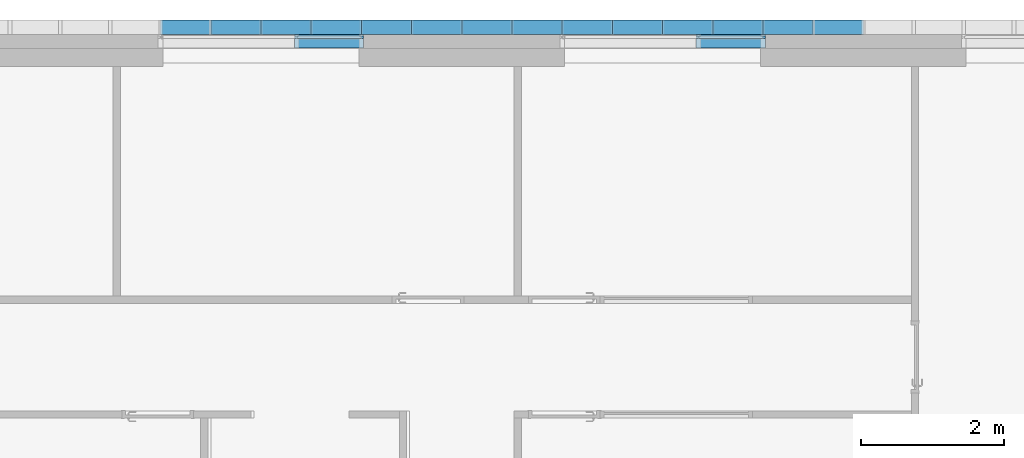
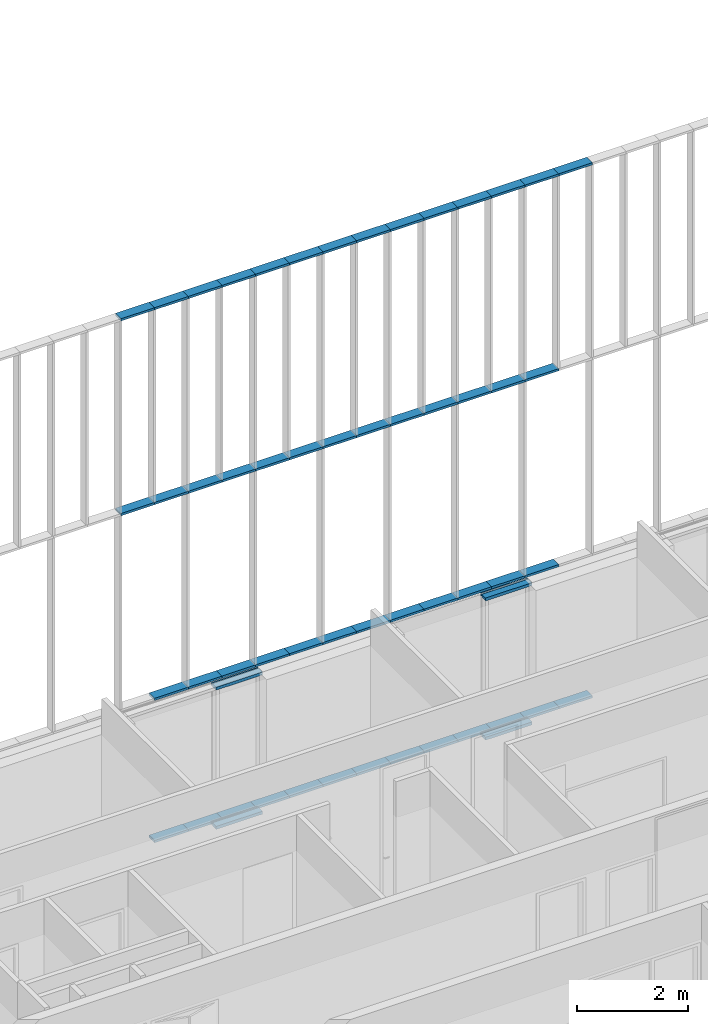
# One storey, part 43 of 240: 56 members, 3 elements without a shape of their own.
"""IFC2X3 building model written with IfcOpenShell, lengths in centimetres."""

from ifc_helpers import new_model, entity, si_unit, converted_unit, derived_unit, direction, frame, origin, origin_2d_with_axis, place, context, subcontext, project, spatial, polyline, rectangle, outline, extrude, source, transform, mapped, material, type_object, type_shapes, element, aggregate, save


model = new_model("IFC2X3")

# Units and contexts
model_context = context("Model", 3, precision=0.001, world=origin(), true_north=direction((6.12303176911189e-17, 1.0)))
body_context = subcontext(model_context, "Body", "Model", "MODEL_VIEW")
ifc_project = project(units=[si_unit("LENGTHUNIT", "METRE", prefix="CENTI"), si_unit("AREAUNIT", "SQUARE_METRE"), si_unit("VOLUMEUNIT", "CUBIC_METRE"), converted_unit("PLANEANGLEUNIT", "DEGREE", entity("IfcRatioMeasure", 0.0174532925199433), si_unit("PLANEANGLEUNIT", "RADIAN"), dimensions=[0, 0, 0, 0, 0, 0, 0]), si_unit("MASSUNIT", "GRAM", prefix="KILO"), derived_unit("MASSDENSITYUNIT", [(si_unit("MASSUNIT", "GRAM", prefix="KILO"), 1), (si_unit("LENGTHUNIT", "METRE"), -3)]), si_unit("TIMEUNIT", "SECOND"), si_unit("FREQUENCYUNIT", "HERTZ"), si_unit("THERMODYNAMICTEMPERATUREUNIT", "DEGREE_CELSIUS"), derived_unit("THERMALTRANSMITTANCEUNIT", [(si_unit("MASSUNIT", "GRAM", prefix="KILO"), 1), (si_unit("THERMODYNAMICTEMPERATUREUNIT", "KELVIN"), -1), (si_unit("TIMEUNIT", "SECOND"), -3)]), derived_unit("VOLUMETRICFLOWRATEUNIT", [(si_unit("LENGTHUNIT", "METRE"), 3), (si_unit("TIMEUNIT", "SECOND"), -1)]), si_unit("ELECTRICCURRENTUNIT", "AMPERE"), si_unit("ELECTRICVOLTAGEUNIT", "VOLT"), si_unit("POWERUNIT", "WATT"), si_unit("FORCEUNIT", "NEWTON", prefix="KILO"), si_unit("ILLUMINANCEUNIT", "LUX"), si_unit("LUMINOUSFLUXUNIT", "LUMEN"), si_unit("LUMINOUSINTENSITYUNIT", "CANDELA"), derived_unit("USERDEFINED", [(si_unit("MASSUNIT", "GRAM", prefix="KILO"), -1), (si_unit("LENGTHUNIT", "METRE"), -2), (si_unit("TIMEUNIT", "SECOND"), 3), (si_unit("LUMINOUSFLUXUNIT", "LUMEN"), 1)]), derived_unit("LINEARVELOCITYUNIT", [(si_unit("LENGTHUNIT", "METRE"), 1), (si_unit("TIMEUNIT", "SECOND"), -1)]), si_unit("PRESSUREUNIT", "PASCAL"), derived_unit("USERDEFINED", [(si_unit("LENGTHUNIT", "METRE"), -2), (si_unit("MASSUNIT", "GRAM", prefix="KILO"), 1), (si_unit("TIMEUNIT", "SECOND"), -2)])], contexts=[model_context])

# Site, building, storey
site_placement = place(None, frame((-2781.94577612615, 7442.24238424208, 0.0)))
site = spatial("IfcSite", under=ifc_project, at=site_placement, Name="Default", CompositionType="ELEMENT")
building_placement = place(site_placement, origin())
building = spatial("IfcBuilding", under=site, at=building_placement, CompositionType="ELEMENT")
storey_placement = place(building_placement, origin())
storey = spatial("IfcBuildingStorey", under=building, at=storey_placement, Name="N00 - COO", CompositionType="ELEMENT", Elevation=0.0)

# Curtain wall, member
curtain_wall_type_1 = type_object("IfcCurtainWallType", Name="Mur-rideau:07 - mur rideau trame 280 cm", PredefinedType="NOTDEFINED")
curtain_wall_1_placement = place(building_placement, origin())
curtain_wall_1 = element("IfcCurtainWall", 1, at=curtain_wall_1_placement, inside=storey, type_object=curtain_wall_type_1, Name="Mur-rideau:07 - mur rideau trame 280 cm", ObjectType="Mur-rideau:07 - mur rideau trame 280 cm")
ifc_material = material(Name="Aluminium")
member_type_1 = type_object("IfcMemberType", Name="150 x 25mm Détails", PredefinedType="MEMBER")
shared_shape_1 = source(origin(), body_context, "Body", "SweptSolid", [
    extrude(outline(polyline([(-5.6666666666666, -3.24999999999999), (-3.66666666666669, -3.24999999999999), (-3.66666666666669, -0.868749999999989), (-0.166666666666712, -0.868749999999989), (-0.166666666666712, -3.25000000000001), (13.3333333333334, -3.25000000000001), (13.3333333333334, 3.24999999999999), (-0.16666666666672, 3.24999999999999), (-0.16666666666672, 0.868749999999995), (-3.66666666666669, 0.868749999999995), (-3.66666666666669, 3.25), (-5.6666666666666, 3.25), (-5.6666666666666, -3.24999999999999)])), frame((-3.24999999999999, -1.96666666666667, -96.5000000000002), z_axis=(0.0, 0.0, 1.0), x_axis=(0.0, -1.0, 0.0)), (0.0, 0.0, 1.0), 96.5),
])
type_shapes(member_type_1, [shared_shape_1])
member_1_placement = place(building_placement, frame((-5422.74987760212, 26.2000000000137, 6.5), z_axis=(-1.0, 0.0, 0.0), x_axis=(0.0, 0.0, 1.0)))
member_1 = element("IfcMember", 2, at=member_1_placement, type_object=member_type_1, material=ifc_material, Name="Meneau rectangulaire:150 x 25mm Détails", ObjectType="Meneau rectangulaire:150 x 25mm Détails", context=body_context, shape_type="MappedRepresentation", body=[
    mapped(shared_shape_1, transform((0.0, 0.0, 0.0), scale=1.0)),
])

curtain_wall_2_placement = place(building_placement, origin())
curtain_wall_2 = element("IfcCurtainWall", 3, at=curtain_wall_2_placement, inside=storey, type_object=curtain_wall_type_1, Name="Mur-rideau:07 - mur rideau trame 280 cm", ObjectType="Mur-rideau:07 - mur rideau trame 280 cm")
member_2_placement = place(building_placement, frame((-5982.74987760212, 26.2000000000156, 6.5), z_axis=(-1.0, 0.0, 0.0), x_axis=(0.0, 0.0, 1.0)))
member_2 = element("IfcMember", 4, at=member_2_placement, type_object=member_type_1, material=ifc_material, Name="Meneau rectangulaire:150 x 25mm Détails", ObjectType="Meneau rectangulaire:150 x 25mm Détails", context=body_context, shape_type="MappedRepresentation", body=[
    mapped(shared_shape_1, transform((0.0, 0.0, 0.0), scale=1.0)),
])

# Member
member_type_2 = type_object("IfcMemberType", Name="150 x 25mm Détails", PredefinedType="MEMBER")
shared_shape_2 = source(origin(), body_context, "Body", "SweptSolid", [
    extrude(outline(polyline([(-5.66666666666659, -3.25), (-3.66666666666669, -3.25), (-3.66666666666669, -0.868749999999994), (-0.166666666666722, -0.868749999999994), (-0.166666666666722, -3.25000000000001), (13.3333333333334, -3.24999999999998), (13.3333333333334, 3.25000000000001), (-0.166666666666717, 3.25000000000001), (-0.166666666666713, 0.868749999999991), (-3.66666666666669, 0.868749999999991), (-3.66666666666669, 3.24999999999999), (-5.66666666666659, 3.24999999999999), (-5.66666666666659, -3.25)])), frame((-3.24999999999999, -1.96666666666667, -96.5000000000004), z_axis=(0.0, 0.0, 1.0), x_axis=(0.0, -1.0, 0.0)), (0.0, 0.0, 1.0), 96.5),
])
type_shapes(member_type_2, [shared_shape_2])
member_3_placement = place(building_placement, frame((-5326.24987760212, 26.2000000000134, 306.0), z_axis=(1.0, 0.0, 0.0), x_axis=(0.0, 0.0, -1.0)))
member_3 = element("IfcMember", 5, at=member_3_placement, type_object=member_type_2, material=ifc_material, Name="Meneau rectangulaire:150 x 25mm Détails", ObjectType="Meneau rectangulaire:150 x 25mm Détails", context=body_context, shape_type="MappedRepresentation", body=[
    mapped(shared_shape_2, transform((0.0, 0.0, 0.0), scale=1.0)),
])

aggregate(curtain_wall_1, [member_3, member_1])

member_4_placement = place(building_placement, frame((-5886.24987760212, 26.2000000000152, 306.0), z_axis=(1.0, 0.0, 0.0), x_axis=(0.0, 0.0, -1.0)))
member_4 = element("IfcMember", 6, at=member_4_placement, type_object=member_type_2, material=ifc_material, Name="Meneau rectangulaire:150 x 25mm Détails", ObjectType="Meneau rectangulaire:150 x 25mm Détails", context=body_context, shape_type="MappedRepresentation", body=[
    mapped(shared_shape_2, transform((0.0, 0.0, 0.0), scale=1.0)),
])

aggregate(curtain_wall_2, [member_2, member_4])

# Curtain wall, members
curtain_wall_type_2 = type_object("IfcCurtainWallType", Name="Mur-rideau:Epines - 200x50mm", PredefinedType="NOTDEFINED")
curtain_wall_3_placement = place(building_placement, origin())
curtain_wall_3 = element("IfcCurtainWall", 7, at=curtain_wall_3_placement, inside=storey, type_object=curtain_wall_type_2, Name="Mur-rideau:Epines - 200x50mm", ObjectType="Mur-rideau:Epines - 200x50mm")
member_type_3 = type_object("IfcMemberType", Name="200x50 mm", PredefinedType="MEMBER")
shared_shape_3 = source(origin(), body_context, "Body", "SweptSolid", [
    extrude(rectangle(XDim=20.0, YDim=5.0, at=origin_2d_with_axis()), frame((-2.5, 0.0, -70.0), z_axis=(0.0, 0.0, 1.0), x_axis=(0.0, -1.0, 0.0)), (0.0, 0.0, 1.0), 70.0000000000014),
])
type_shapes(member_type_3, [shared_shape_3])
member_5_placement = place(building_placement, frame((-5329.49987760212, 40.0, 1176.0), z_axis=(1.0, 0.0, 0.0), x_axis=(0.0, 0.0, 1.0)))
member_5 = element("IfcMember", 8, at=member_5_placement, type_object=member_type_3, material=ifc_material, Name="Meneau rectangulaire:200x50 mm", ObjectType="Meneau rectangulaire:200x50 mm", context=body_context, shape_type="MappedRepresentation", body=[
    mapped(shared_shape_3, transform((0.0, 0.0, 0.0), scale=1.0)),
])
member_6_placement = place(building_placement, frame((-5609.49987760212, 40.0, 1176.0), z_axis=(1.0, 0.0, 0.0), x_axis=(0.0, 0.0, 1.0)))
member_6 = element("IfcMember", 9, at=member_6_placement, type_object=member_type_3, material=ifc_material, Name="Meneau rectangulaire:200x50 mm", ObjectType="Meneau rectangulaire:200x50 mm", context=body_context, shape_type="MappedRepresentation", body=[
    mapped(shared_shape_3, transform((0.0, 0.0, 0.0), scale=1.0)),
])
member_7_placement = place(building_placement, frame((-5889.49987760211, 40.0, 1176.0), z_axis=(1.0, 0.0, 0.0), x_axis=(0.0, 0.0, 1.0)))
member_7 = element("IfcMember", 10, at=member_7_placement, type_object=member_type_3, material=ifc_material, Name="Meneau rectangulaire:200x50 mm", ObjectType="Meneau rectangulaire:200x50 mm", context=body_context, shape_type="MappedRepresentation", body=[
    mapped(shared_shape_3, transform((0.0, 0.0, 0.0), scale=1.0)),
])
member_8_placement = place(building_placement, frame((-6029.49987760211, 40.0, 1176.0), z_axis=(1.0, 0.0, 0.0), x_axis=(0.0, 0.0, 1.0)))
member_8 = element("IfcMember", 11, at=member_8_placement, type_object=member_type_3, material=ifc_material, Name="Meneau rectangulaire:200x50 mm", ObjectType="Meneau rectangulaire:200x50 mm", context=body_context, shape_type="MappedRepresentation", body=[
    mapped(shared_shape_3, transform((0.0, 0.0, 0.0), scale=1.0)),
])
member_9_placement = place(building_placement, frame((-5189.49987760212, 40.0, 1176.0), z_axis=(1.0, 0.0, 0.0), x_axis=(0.0, 0.0, 1.0)))
member_9 = element("IfcMember", 12, at=member_9_placement, type_object=member_type_3, material=ifc_material, Name="Meneau rectangulaire:200x50 mm", ObjectType="Meneau rectangulaire:200x50 mm", context=body_context, shape_type="MappedRepresentation", body=[
    mapped(shared_shape_3, transform((0.0, 0.0, 0.0), scale=1.0)),
])
member_10_placement = place(building_placement, frame((-5469.49987760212, 40.0, 1176.0), z_axis=(1.0, 0.0, 0.0), x_axis=(0.0, 0.0, 1.0)))
member_10 = element("IfcMember", 13, at=member_10_placement, type_object=member_type_3, material=ifc_material, Name="Meneau rectangulaire:200x50 mm", ObjectType="Meneau rectangulaire:200x50 mm", context=body_context, shape_type="MappedRepresentation", body=[
    mapped(shared_shape_3, transform((0.0, 0.0, 0.0), scale=1.0)),
])
member_11_placement = place(building_placement, frame((-5749.49987760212, 40.0, 1176.0), z_axis=(1.0, 0.0, 0.0), x_axis=(0.0, 0.0, 1.0)))
member_11 = element("IfcMember", 14, at=member_11_placement, type_object=member_type_3, material=ifc_material, Name="Meneau rectangulaire:200x50 mm", ObjectType="Meneau rectangulaire:200x50 mm", context=body_context, shape_type="MappedRepresentation", body=[
    mapped(shared_shape_3, transform((0.0, 0.0, 0.0), scale=1.0)),
])
member_12_placement = place(building_placement, frame((-5259.49987760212, 40.0, 1176.0), z_axis=(1.0, 0.0, 0.0), x_axis=(0.0, 0.0, 1.0)))
member_12 = element("IfcMember", 15, at=member_12_placement, type_object=member_type_3, material=ifc_material, Name="Meneau rectangulaire:200x50 mm", ObjectType="Meneau rectangulaire:200x50 mm", context=body_context, shape_type="MappedRepresentation", body=[
    mapped(shared_shape_3, transform((0.0, 0.0, 0.0), scale=1.0)),
])
member_13_placement = place(building_placement, frame((-5399.49987760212, 40.0, 1176.0), z_axis=(1.0, 0.0, 0.0), x_axis=(0.0, 0.0, 1.0)))
member_13 = element("IfcMember", 16, at=member_13_placement, type_object=member_type_3, material=ifc_material, Name="Meneau rectangulaire:200x50 mm", ObjectType="Meneau rectangulaire:200x50 mm", context=body_context, shape_type="MappedRepresentation", body=[
    mapped(shared_shape_3, transform((0.0, 0.0, 0.0), scale=1.0)),
])
member_14_placement = place(building_placement, frame((-5539.49987760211, 40.0, 1176.0), z_axis=(1.0, 0.0, 0.0), x_axis=(0.0, 0.0, 1.0)))
member_14 = element("IfcMember", 17, at=member_14_placement, type_object=member_type_3, material=ifc_material, Name="Meneau rectangulaire:200x50 mm", ObjectType="Meneau rectangulaire:200x50 mm", context=body_context, shape_type="MappedRepresentation", body=[
    mapped(shared_shape_3, transform((0.0, 0.0, 0.0), scale=1.0)),
])
member_15_placement = place(building_placement, frame((-5679.49987760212, 40.0, 1176.0), z_axis=(1.0, 0.0, 0.0), x_axis=(0.0, 0.0, 1.0)))
member_15 = element("IfcMember", 18, at=member_15_placement, type_object=member_type_3, material=ifc_material, Name="Meneau rectangulaire:200x50 mm", ObjectType="Meneau rectangulaire:200x50 mm", context=body_context, shape_type="MappedRepresentation", body=[
    mapped(shared_shape_3, transform((0.0, 0.0, 0.0), scale=1.0)),
])
member_16_placement = place(building_placement, frame((-5819.49987760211, 40.0, 1176.0), z_axis=(1.0, 0.0, 0.0), x_axis=(0.0, 0.0, 1.0)))
member_16 = element("IfcMember", 19, at=member_16_placement, type_object=member_type_3, material=ifc_material, Name="Meneau rectangulaire:200x50 mm", ObjectType="Meneau rectangulaire:200x50 mm", context=body_context, shape_type="MappedRepresentation", body=[
    mapped(shared_shape_3, transform((0.0, 0.0, 0.0), scale=1.0)),
])
member_17_placement = place(building_placement, frame((-5959.49987760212, 40.0, 1176.0), z_axis=(1.0, 0.0, 0.0), x_axis=(0.0, 0.0, 1.0)))
member_17 = element("IfcMember", 20, at=member_17_placement, type_object=member_type_3, material=ifc_material, Name="Meneau rectangulaire:200x50 mm", ObjectType="Meneau rectangulaire:200x50 mm", context=body_context, shape_type="MappedRepresentation", body=[
    mapped(shared_shape_3, transform((0.0, 0.0, 0.0), scale=1.0)),
])
member_18_placement = place(building_placement, frame((-6099.49987760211, 40.0, 1176.0), z_axis=(1.0, 0.0, 0.0), x_axis=(0.0, 0.0, 1.0)))
member_18 = element("IfcMember", 21, at=member_18_placement, type_object=member_type_3, material=ifc_material, Name="Meneau rectangulaire:200x50 mm", ObjectType="Meneau rectangulaire:200x50 mm", context=body_context, shape_type="MappedRepresentation", body=[
    mapped(shared_shape_3, transform((0.0, 0.0, 0.0), scale=1.0)),
])
member_type_4 = type_object("IfcMemberType", Name="200x50 mm", PredefinedType="MEMBER")
shared_shape_4 = source(origin(), body_context, "Body", "SweptSolid", [
    extrude(rectangle(XDim=20.0, YDim=5.0, at=origin_2d_with_axis()), frame((-2.5, 0.0, -70.0), z_axis=(0.0, 0.0, 1.0), x_axis=(0.0, -1.0, 0.0)), (0.0, 0.0, 1.0), 70.0000000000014),
])
type_shapes(member_type_4, [shared_shape_4])
member_19_placement = place(building_placement, frame((-5329.49987760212, 40.0, 0.0), z_axis=(-1.0, 0.0, 0.0), x_axis=(0.0, 0.0, -1.0)))
member_19 = element("IfcMember", 22, at=member_19_placement, type_object=member_type_4, material=ifc_material, Name="Meneau rectangulaire:200x50 mm", ObjectType="Meneau rectangulaire:200x50 mm", context=body_context, shape_type="MappedRepresentation", body=[
    mapped(shared_shape_4, transform((0.0, 0.0, 0.0), scale=1.0)),
])
member_20_placement = place(building_placement, frame((-5609.49987760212, 40.0, 0.0), z_axis=(-1.0, 0.0, 0.0), x_axis=(0.0, 0.0, -1.0)))
member_20 = element("IfcMember", 23, at=member_20_placement, type_object=member_type_4, material=ifc_material, Name="Meneau rectangulaire:200x50 mm", ObjectType="Meneau rectangulaire:200x50 mm", context=body_context, shape_type="MappedRepresentation", body=[
    mapped(shared_shape_4, transform((0.0, 0.0, 0.0), scale=1.0)),
])
member_21_placement = place(building_placement, frame((-5889.49987760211, 40.0, 0.0), z_axis=(-1.0, 0.0, 0.0), x_axis=(0.0, 0.0, -1.0)))
member_21 = element("IfcMember", 24, at=member_21_placement, type_object=member_type_4, material=ifc_material, Name="Meneau rectangulaire:200x50 mm", ObjectType="Meneau rectangulaire:200x50 mm", context=body_context, shape_type="MappedRepresentation", body=[
    mapped(shared_shape_4, transform((0.0, 0.0, 0.0), scale=1.0)),
])
member_type_5 = type_object("IfcMemberType", Name="200x50 mm", PredefinedType="MEMBER")
shared_shape_5 = source(origin(), body_context, "Body", "SweptSolid", [
    extrude(rectangle(XDim=20.0, YDim=5.0, at=origin_2d_with_axis()), frame((0.0, 0.0, -70.0), z_axis=(0.0, 0.0, 1.0), x_axis=(0.0, -1.0, 0.0)), (0.0, 0.0, 1.0), 70.0000000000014),
])
type_shapes(member_type_5, [shared_shape_5])
member_22_placement = place(building_placement, frame((-5259.49987760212, 40.0, 315.0), z_axis=(1.0, 0.0, 0.0), x_axis=(0.0, 0.0, 1.0)))
member_22 = element("IfcMember", 25, at=member_22_placement, type_object=member_type_5, material=ifc_material, Name="Meneau rectangulaire:200x50 mm", ObjectType="Meneau rectangulaire:200x50 mm", context=body_context, shape_type="MappedRepresentation", body=[
    mapped(shared_shape_5, transform((0.0, 0.0, 0.0), scale=1.0)),
])
member_23_placement = place(building_placement, frame((-5539.49987760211, 40.0, 315.0), z_axis=(1.0, 0.0, 0.0), x_axis=(0.0, 0.0, 1.0)))
member_23 = element("IfcMember", 26, at=member_23_placement, type_object=member_type_5, material=ifc_material, Name="Meneau rectangulaire:200x50 mm", ObjectType="Meneau rectangulaire:200x50 mm", context=body_context, shape_type="MappedRepresentation", body=[
    mapped(shared_shape_5, transform((0.0, 0.0, 0.0), scale=1.0)),
])
member_24_placement = place(building_placement, frame((-5819.49987760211, 40.0, 315.0), z_axis=(1.0, 0.0, 0.0), x_axis=(0.0, 0.0, 1.0)))
member_24 = element("IfcMember", 27, at=member_24_placement, type_object=member_type_5, material=ifc_material, Name="Meneau rectangulaire:200x50 mm", ObjectType="Meneau rectangulaire:200x50 mm", context=body_context, shape_type="MappedRepresentation", body=[
    mapped(shared_shape_5, transform((0.0, 0.0, 0.0), scale=1.0)),
])
member_25_placement = place(building_placement, frame((-5959.49987760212, 40.0, 315.0), z_axis=(1.0, 0.0, 0.0), x_axis=(0.0, 0.0, 1.0)))
member_25 = element("IfcMember", 28, at=member_25_placement, type_object=member_type_5, material=ifc_material, Name="Meneau rectangulaire:200x50 mm", ObjectType="Meneau rectangulaire:200x50 mm", context=body_context, shape_type="MappedRepresentation", body=[
    mapped(shared_shape_5, transform((0.0, 0.0, 0.0), scale=1.0)),
])
member_26_placement = place(building_placement, frame((-5399.49987760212, 40.0, 315.0), z_axis=(1.0, 0.0, 0.0), x_axis=(0.0, 0.0, 1.0)))
member_26 = element("IfcMember", 29, at=member_26_placement, type_object=member_type_5, material=ifc_material, Name="Meneau rectangulaire:200x50 mm", ObjectType="Meneau rectangulaire:200x50 mm", context=body_context, shape_type="MappedRepresentation", body=[
    mapped(shared_shape_5, transform((0.0, 0.0, 0.0), scale=1.0)),
])
member_27_placement = place(building_placement, frame((-5679.49987760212, 40.0, 315.0), z_axis=(1.0, 0.0, 0.0), x_axis=(0.0, 0.0, 1.0)))
member_27 = element("IfcMember", 30, at=member_27_placement, type_object=member_type_5, material=ifc_material, Name="Meneau rectangulaire:200x50 mm", ObjectType="Meneau rectangulaire:200x50 mm", context=body_context, shape_type="MappedRepresentation", body=[
    mapped(shared_shape_5, transform((0.0, 0.0, 0.0), scale=1.0)),
])
member_type_6 = type_object("IfcMemberType", Name="200x50 mm", PredefinedType="MEMBER")
shared_shape_6 = source(origin(), body_context, "Body", "SweptSolid", [
    extrude(rectangle(XDim=20.0, YDim=5.0, at=origin_2d_with_axis()), frame((0.0, 0.0, -70.0), z_axis=(0.0, 0.0, 1.0), x_axis=(0.0, -1.0, 0.0)), (0.0, 0.0, 1.0), 70.0000000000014),
])
type_shapes(member_type_6, [shared_shape_6])
member_28_placement = place(building_placement, frame((-5259.49987760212, 40.0, 745.5), z_axis=(1.0, 0.0, 0.0), x_axis=(0.0, 0.0, 1.0)))
member_28 = element("IfcMember", 31, at=member_28_placement, type_object=member_type_6, material=ifc_material, Name="Meneau rectangulaire:200x50 mm", ObjectType="Meneau rectangulaire:200x50 mm", context=body_context, shape_type="MappedRepresentation", body=[
    mapped(shared_shape_6, transform((0.0, 0.0, 0.0), scale=1.0)),
])
member_29_placement = place(building_placement, frame((-5539.49987760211, 40.0, 745.5), z_axis=(1.0, 0.0, 0.0), x_axis=(0.0, 0.0, 1.0)))
member_29 = element("IfcMember", 32, at=member_29_placement, type_object=member_type_6, material=ifc_material, Name="Meneau rectangulaire:200x50 mm", ObjectType="Meneau rectangulaire:200x50 mm", context=body_context, shape_type="MappedRepresentation", body=[
    mapped(shared_shape_6, transform((0.0, 0.0, 0.0), scale=1.0)),
])
member_30_placement = place(building_placement, frame((-5819.49987760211, 40.0, 745.5), z_axis=(1.0, 0.0, 0.0), x_axis=(0.0, 0.0, 1.0)))
member_30 = element("IfcMember", 33, at=member_30_placement, type_object=member_type_6, material=ifc_material, Name="Meneau rectangulaire:200x50 mm", ObjectType="Meneau rectangulaire:200x50 mm", context=body_context, shape_type="MappedRepresentation", body=[
    mapped(shared_shape_6, transform((0.0, 0.0, 0.0), scale=1.0)),
])
member_31_placement = place(building_placement, frame((-6099.49987760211, 40.0, 745.5), z_axis=(1.0, 0.0, 0.0), x_axis=(0.0, 0.0, 1.0)))
member_31 = element("IfcMember", 34, at=member_31_placement, type_object=member_type_6, material=ifc_material, Name="Meneau rectangulaire:200x50 mm", ObjectType="Meneau rectangulaire:200x50 mm", context=body_context, shape_type="MappedRepresentation", body=[
    mapped(shared_shape_6, transform((0.0, 0.0, 0.0), scale=1.0)),
])
member_32_placement = place(building_placement, frame((-5959.49987760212, 40.0, 745.5), z_axis=(1.0, 0.0, 0.0), x_axis=(0.0, 0.0, 1.0)))
member_32 = element("IfcMember", 35, at=member_32_placement, type_object=member_type_6, material=ifc_material, Name="Meneau rectangulaire:200x50 mm", ObjectType="Meneau rectangulaire:200x50 mm", context=body_context, shape_type="MappedRepresentation", body=[
    mapped(shared_shape_6, transform((0.0, 0.0, 0.0), scale=1.0)),
])
member_33_placement = place(building_placement, frame((-5399.49987760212, 40.0, 745.5), z_axis=(1.0, 0.0, 0.0), x_axis=(0.0, 0.0, 1.0)))
member_33 = element("IfcMember", 36, at=member_33_placement, type_object=member_type_6, material=ifc_material, Name="Meneau rectangulaire:200x50 mm", ObjectType="Meneau rectangulaire:200x50 mm", context=body_context, shape_type="MappedRepresentation", body=[
    mapped(shared_shape_6, transform((0.0, 0.0, 0.0), scale=1.0)),
])
member_34_placement = place(building_placement, frame((-5679.49987760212, 40.0, 745.5), z_axis=(1.0, 0.0, 0.0), x_axis=(0.0, 0.0, 1.0)))
member_34 = element("IfcMember", 37, at=member_34_placement, type_object=member_type_6, material=ifc_material, Name="Meneau rectangulaire:200x50 mm", ObjectType="Meneau rectangulaire:200x50 mm", context=body_context, shape_type="MappedRepresentation", body=[
    mapped(shared_shape_6, transform((0.0, 0.0, 0.0), scale=1.0)),
])
member_35_placement = place(building_placement, frame((-5329.49987760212, 40.0, 745.5), z_axis=(1.0, 0.0, 0.0), x_axis=(0.0, 0.0, 1.0)))
member_35 = element("IfcMember", 38, at=member_35_placement, type_object=member_type_6, material=ifc_material, Name="Meneau rectangulaire:200x50 mm", ObjectType="Meneau rectangulaire:200x50 mm", context=body_context, shape_type="MappedRepresentation", body=[
    mapped(shared_shape_6, transform((0.0, 0.0, 0.0), scale=1.0)),
])
member_36_placement = place(building_placement, frame((-5469.49987760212, 40.0, 745.5), z_axis=(1.0, 0.0, 0.0), x_axis=(0.0, 0.0, 1.0)))
member_36 = element("IfcMember", 39, at=member_36_placement, type_object=member_type_6, material=ifc_material, Name="Meneau rectangulaire:200x50 mm", ObjectType="Meneau rectangulaire:200x50 mm", context=body_context, shape_type="MappedRepresentation", body=[
    mapped(shared_shape_6, transform((0.0, 0.0, 0.0), scale=1.0)),
])
member_37_placement = place(building_placement, frame((-5609.49987760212, 40.0, 745.5), z_axis=(1.0, 0.0, 0.0), x_axis=(0.0, 0.0, 1.0)))
member_37 = element("IfcMember", 40, at=member_37_placement, type_object=member_type_6, material=ifc_material, Name="Meneau rectangulaire:200x50 mm", ObjectType="Meneau rectangulaire:200x50 mm", context=body_context, shape_type="MappedRepresentation", body=[
    mapped(shared_shape_6, transform((0.0, 0.0, 0.0), scale=1.0)),
])
member_38_placement = place(building_placement, frame((-5749.49987760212, 40.0, 745.5), z_axis=(1.0, 0.0, 0.0), x_axis=(0.0, 0.0, 1.0)))
member_38 = element("IfcMember", 41, at=member_38_placement, type_object=member_type_6, material=ifc_material, Name="Meneau rectangulaire:200x50 mm", ObjectType="Meneau rectangulaire:200x50 mm", context=body_context, shape_type="MappedRepresentation", body=[
    mapped(shared_shape_6, transform((0.0, 0.0, 0.0), scale=1.0)),
])
member_39_placement = place(building_placement, frame((-5889.49987760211, 40.0, 745.5), z_axis=(1.0, 0.0, 0.0), x_axis=(0.0, 0.0, 1.0)))
member_39 = element("IfcMember", 42, at=member_39_placement, type_object=member_type_6, material=ifc_material, Name="Meneau rectangulaire:200x50 mm", ObjectType="Meneau rectangulaire:200x50 mm", context=body_context, shape_type="MappedRepresentation", body=[
    mapped(shared_shape_6, transform((0.0, 0.0, 0.0), scale=1.0)),
])
member_40_placement = place(building_placement, frame((-6029.49987760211, 40.0, 745.5), z_axis=(1.0, 0.0, 0.0), x_axis=(0.0, 0.0, 1.0)))
member_40 = element("IfcMember", 43, at=member_40_placement, type_object=member_type_6, material=ifc_material, Name="Meneau rectangulaire:200x50 mm", ObjectType="Meneau rectangulaire:200x50 mm", context=body_context, shape_type="MappedRepresentation", body=[
    mapped(shared_shape_6, transform((0.0, 0.0, 0.0), scale=1.0)),
])
member_type_7 = type_object("IfcMemberType", Name="200x50 mm", PredefinedType="MEMBER")
shared_shape_7 = source(origin(), body_context, "Body", "SweptSolid", [
    extrude(rectangle(XDim=20.0, YDim=5.0, at=origin_2d_with_axis()), frame((-2.5, 0.0, -70.0), z_axis=(0.0, 0.0, 1.0), x_axis=(0.0, -1.0, 0.0)), (0.0, 0.0, 1.0), 69.9999999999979),
])
type_shapes(member_type_7, [shared_shape_7])
member_41_placement = place(building_placement, frame((-6029.49987760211, 40.0, 0.0), z_axis=(-1.0, 0.0, 0.0), x_axis=(0.0, 0.0, -1.0)))
member_41 = element("IfcMember", 44, at=member_41_placement, type_object=member_type_7, material=ifc_material, Name="Meneau rectangulaire:200x50 mm", ObjectType="Meneau rectangulaire:200x50 mm", context=body_context, shape_type="MappedRepresentation", body=[
    mapped(shared_shape_7, transform((0.0, 0.0, 0.0), scale=1.0)),
])
member_42_placement = place(building_placement, frame((-5469.49987760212, 40.0, 0.0), z_axis=(-1.0, 0.0, 0.0), x_axis=(0.0, 0.0, -1.0)))
member_42 = element("IfcMember", 45, at=member_42_placement, type_object=member_type_7, material=ifc_material, Name="Meneau rectangulaire:200x50 mm", ObjectType="Meneau rectangulaire:200x50 mm", context=body_context, shape_type="MappedRepresentation", body=[
    mapped(shared_shape_7, transform((0.0, 0.0, 0.0), scale=1.0)),
])
member_43_placement = place(building_placement, frame((-5749.49987760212, 40.0, 0.0), z_axis=(-1.0, 0.0, 0.0), x_axis=(0.0, 0.0, -1.0)))
member_43 = element("IfcMember", 46, at=member_43_placement, type_object=member_type_7, material=ifc_material, Name="Meneau rectangulaire:200x50 mm", ObjectType="Meneau rectangulaire:200x50 mm", context=body_context, shape_type="MappedRepresentation", body=[
    mapped(shared_shape_7, transform((0.0, 0.0, 0.0), scale=1.0)),
])
member_44_placement = place(building_placement, frame((-5259.49987760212, 40.0, 0.0), z_axis=(-1.0, 0.0, 0.0), x_axis=(0.0, 0.0, -1.0)))
member_44 = element("IfcMember", 47, at=member_44_placement, type_object=member_type_7, material=ifc_material, Name="Meneau rectangulaire:200x50 mm", ObjectType="Meneau rectangulaire:200x50 mm", context=body_context, shape_type="MappedRepresentation", body=[
    mapped(shared_shape_7, transform((0.0, 0.0, 0.0), scale=1.0)),
])
member_45_placement = place(building_placement, frame((-5539.49987760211, 40.0, 0.0), z_axis=(-1.0, 0.0, 0.0), x_axis=(0.0, 0.0, -1.0)))
member_45 = element("IfcMember", 48, at=member_45_placement, type_object=member_type_7, material=ifc_material, Name="Meneau rectangulaire:200x50 mm", ObjectType="Meneau rectangulaire:200x50 mm", context=body_context, shape_type="MappedRepresentation", body=[
    mapped(shared_shape_7, transform((0.0, 0.0, 0.0), scale=1.0)),
])
member_46_placement = place(building_placement, frame((-5819.49987760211, 40.0, 0.0), z_axis=(-1.0, 0.0, 0.0), x_axis=(0.0, 0.0, -1.0)))
member_46 = element("IfcMember", 49, at=member_46_placement, type_object=member_type_7, material=ifc_material, Name="Meneau rectangulaire:200x50 mm", ObjectType="Meneau rectangulaire:200x50 mm", context=body_context, shape_type="MappedRepresentation", body=[
    mapped(shared_shape_7, transform((0.0, 0.0, 0.0), scale=1.0)),
])
member_47_placement = place(building_placement, frame((-6099.49987760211, 40.0, 0.0), z_axis=(-1.0, 0.0, 0.0), x_axis=(0.0, 0.0, -1.0)))
member_47 = element("IfcMember", 50, at=member_47_placement, type_object=member_type_7, material=ifc_material, Name="Meneau rectangulaire:200x50 mm", ObjectType="Meneau rectangulaire:200x50 mm", context=body_context, shape_type="MappedRepresentation", body=[
    mapped(shared_shape_7, transform((0.0, 0.0, 0.0), scale=1.0)),
])
member_type_8 = type_object("IfcMemberType", Name="200x50 mm", PredefinedType="MEMBER")
shared_shape_8 = source(origin(), body_context, "Body", "SweptSolid", [
    extrude(rectangle(XDim=20.0, YDim=5.0, at=origin_2d_with_axis()), frame((0.0, 0.0, -70.0), z_axis=(0.0, 0.0, 1.0), x_axis=(0.0, -1.0, 0.0)), (0.0, 0.0, 1.0), 70.0000000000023),
])
type_shapes(member_type_8, [shared_shape_8])
member_48_placement = place(building_placement, frame((-5329.49987760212, 40.0, 315.0), z_axis=(1.0, 0.0, 0.0), x_axis=(0.0, 0.0, 1.0)))
member_48 = element("IfcMember", 51, at=member_48_placement, type_object=member_type_8, material=ifc_material, Name="Meneau rectangulaire:200x50 mm", ObjectType="Meneau rectangulaire:200x50 mm", context=body_context, shape_type="MappedRepresentation", body=[
    mapped(shared_shape_8, transform((0.0, 0.0, 0.0), scale=1.0)),
])
member_49_placement = place(building_placement, frame((-5469.49987760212, 40.0, 315.0), z_axis=(1.0, 0.0, 0.0), x_axis=(0.0, 0.0, 1.0)))
member_49 = element("IfcMember", 52, at=member_49_placement, type_object=member_type_8, material=ifc_material, Name="Meneau rectangulaire:200x50 mm", ObjectType="Meneau rectangulaire:200x50 mm", context=body_context, shape_type="MappedRepresentation", body=[
    mapped(shared_shape_8, transform((0.0, 0.0, 0.0), scale=1.0)),
])
member_50_placement = place(building_placement, frame((-5609.49987760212, 40.0, 315.0), z_axis=(1.0, 0.0, 0.0), x_axis=(0.0, 0.0, 1.0)))
member_50 = element("IfcMember", 53, at=member_50_placement, type_object=member_type_8, material=ifc_material, Name="Meneau rectangulaire:200x50 mm", ObjectType="Meneau rectangulaire:200x50 mm", context=body_context, shape_type="MappedRepresentation", body=[
    mapped(shared_shape_8, transform((0.0, 0.0, 0.0), scale=1.0)),
])
member_51_placement = place(building_placement, frame((-5749.49987760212, 40.0, 315.0), z_axis=(1.0, 0.0, 0.0), x_axis=(0.0, 0.0, 1.0)))
member_51 = element("IfcMember", 54, at=member_51_placement, type_object=member_type_8, material=ifc_material, Name="Meneau rectangulaire:200x50 mm", ObjectType="Meneau rectangulaire:200x50 mm", context=body_context, shape_type="MappedRepresentation", body=[
    mapped(shared_shape_8, transform((0.0, 0.0, 0.0), scale=1.0)),
])
member_52_placement = place(building_placement, frame((-5889.49987760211, 40.0, 315.0), z_axis=(1.0, 0.0, 0.0), x_axis=(0.0, 0.0, 1.0)))
member_52 = element("IfcMember", 55, at=member_52_placement, type_object=member_type_8, material=ifc_material, Name="Meneau rectangulaire:200x50 mm", ObjectType="Meneau rectangulaire:200x50 mm", context=body_context, shape_type="MappedRepresentation", body=[
    mapped(shared_shape_8, transform((0.0, 0.0, 0.0), scale=1.0)),
])
member_53_placement = place(building_placement, frame((-6029.49987760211, 40.0, 315.0), z_axis=(1.0, 0.0, 0.0), x_axis=(0.0, 0.0, 1.0)))
member_53 = element("IfcMember", 56, at=member_53_placement, type_object=member_type_8, material=ifc_material, Name="Meneau rectangulaire:200x50 mm", ObjectType="Meneau rectangulaire:200x50 mm", context=body_context, shape_type="MappedRepresentation", body=[
    mapped(shared_shape_8, transform((0.0, 0.0, 0.0), scale=1.0)),
])
member_type_9 = type_object("IfcMemberType", Name="200x50 mm", PredefinedType="MEMBER")
shared_shape_9 = source(origin(), body_context, "Body", "SweptSolid", [
    extrude(rectangle(XDim=20.0, YDim=5.0, at=origin_2d_with_axis()), frame((-2.5, 0.0, -70.0), z_axis=(0.0, 0.0, 1.0), x_axis=(0.0, -1.0, 0.0)), (0.0, 0.0, 1.0), 70.0000000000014),
])
type_shapes(member_type_9, [shared_shape_9])
member_54_placement = place(building_placement, frame((-5399.49987760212, 40.0, 0.0), z_axis=(-1.0, 0.0, 0.0), x_axis=(0.0, 0.0, -1.0)))
member_54 = element("IfcMember", 57, at=member_54_placement, type_object=member_type_9, material=ifc_material, Name="Meneau rectangulaire:200x50 mm", ObjectType="Meneau rectangulaire:200x50 mm", context=body_context, shape_type="MappedRepresentation", body=[
    mapped(shared_shape_9, transform((0.0, 0.0, 0.0), scale=1.0)),
])
member_55_placement = place(building_placement, frame((-5679.49987760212, 40.0, 0.0), z_axis=(-1.0, 0.0, 0.0), x_axis=(0.0, 0.0, -1.0)))
member_55 = element("IfcMember", 58, at=member_55_placement, type_object=member_type_9, material=ifc_material, Name="Meneau rectangulaire:200x50 mm", ObjectType="Meneau rectangulaire:200x50 mm", context=body_context, shape_type="MappedRepresentation", body=[
    mapped(shared_shape_9, transform((0.0, 0.0, 0.0), scale=1.0)),
])
member_56_placement = place(building_placement, frame((-5959.49987760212, 40.0, 0.0), z_axis=(-1.0, 0.0, 0.0), x_axis=(0.0, 0.0, -1.0)))
member_56 = element("IfcMember", 59, at=member_56_placement, type_object=member_type_9, material=ifc_material, Name="Meneau rectangulaire:200x50 mm", ObjectType="Meneau rectangulaire:200x50 mm", context=body_context, shape_type="MappedRepresentation", body=[
    mapped(shared_shape_9, transform((0.0, 0.0, 0.0), scale=1.0)),
])
aggregate(curtain_wall_3, [member_5, member_19, member_22, member_28, member_6, member_20, member_23, member_29, member_7, member_21, member_24, member_30, member_31, member_8, member_41, member_25, member_32, member_9, member_10, member_42, member_26, member_33, member_11, member_43, member_27, member_34, member_12, member_44, member_13, member_54, member_48, member_35, member_14, member_45, member_49, member_36, member_15, member_55, member_50, member_37, member_16, member_46, member_51, member_38, member_17, member_56, member_52, member_39, member_18, member_47, member_53, member_40])

save(model, "model.ifc")
